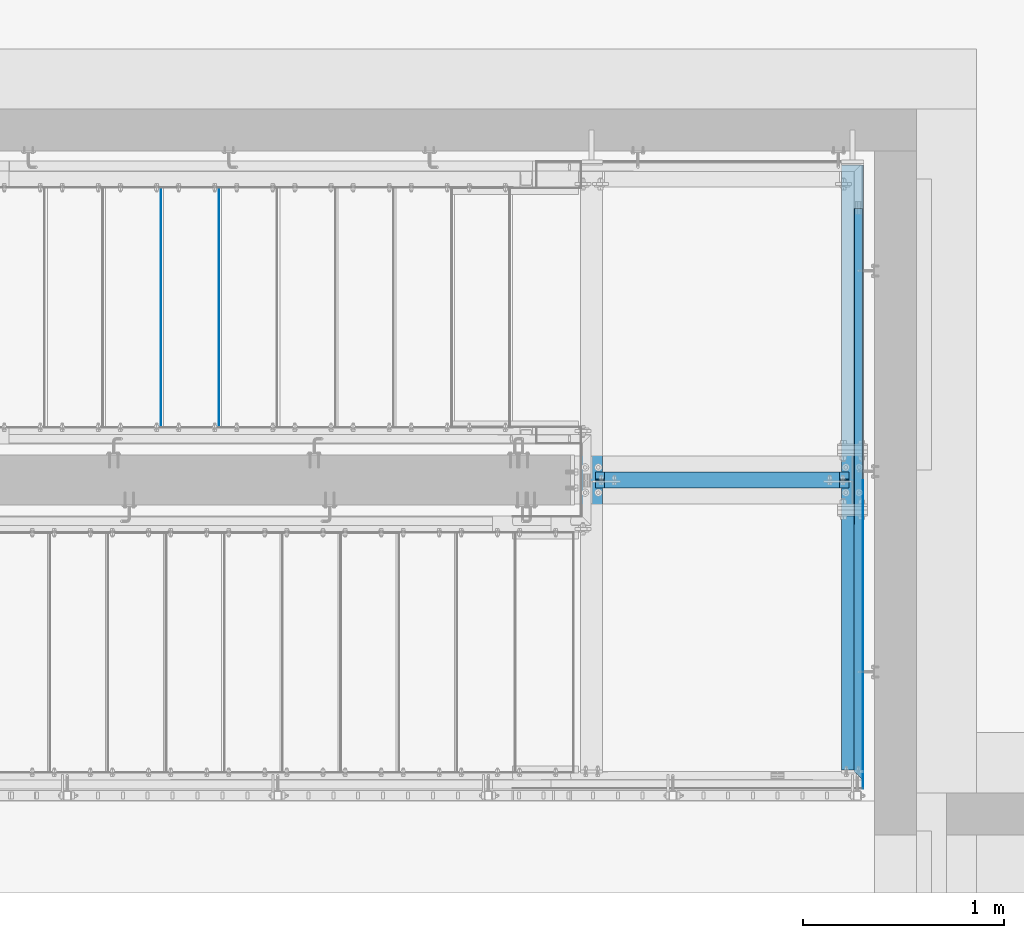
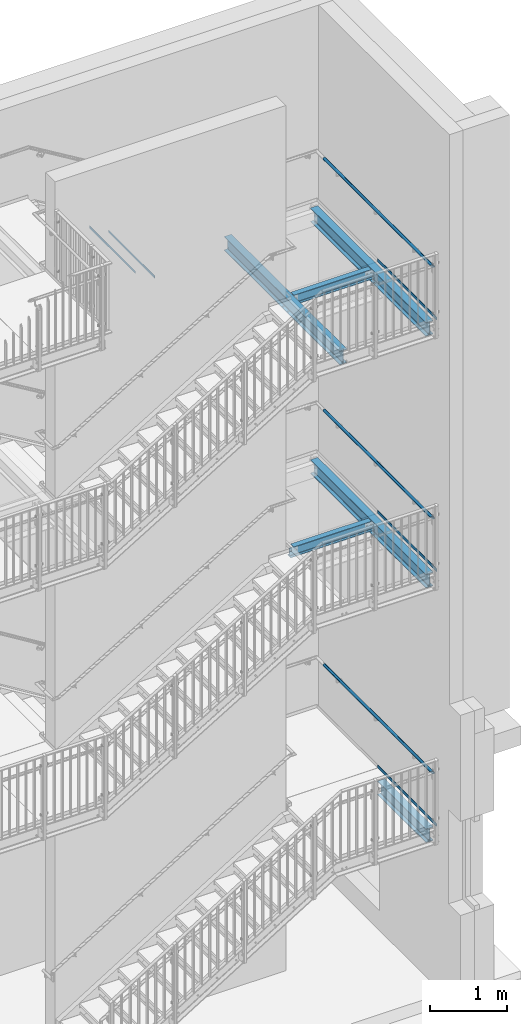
# One storey, part 35 of 410: 14 beams, 30 openings.
"""IFC2X3 building model written with IfcOpenShell, lengths in millimetres."""

from ifc_helpers import new_model, entity, si_unit, converted_unit, point, frame, frame_2d, origin, origin_with_axes, origin_2d, origin_2d_with_axis, place, context, project, spatial, circle_curve, line_curve, trimmed, segment, composite_curve, rectangle, circle, hollow_circle, i_section, outline, extrude, clip, halfspace, material, element, save


model = new_model("IFC2X3")

# Units and contexts
model_context = context("Model", 3, precision=1e-09, world=origin_with_axes())
ifc_project = project(units=[si_unit("LENGTHUNIT", "METRE", prefix="MILLI"), si_unit("AREAUNIT", "SQUARE_METRE"), si_unit("VOLUMEUNIT", "CUBIC_METRE"), converted_unit("PLANEANGLEUNIT", "DEGREE", entity("IfcPlaneAngleMeasure", 0.01745329), si_unit("PLANEANGLEUNIT", "RADIAN"), dimensions=[0, 0, 0, 0, 0, 0, 0])], contexts=[model_context])

# Site, building, storey
site_placement = place(None, origin_with_axes())
site = spatial("IfcSite", under=ifc_project, at=site_placement, Name="mKR Teilneubau & Sanierung BA1 - Ostfildern", CompositionType="ELEMENT")
building_placement = place(site_placement, origin_with_axes())
building = spatial("IfcBuilding", under=site, at=building_placement, Name="Struktur 1", CompositionType="ELEMENT")
storey_placement = place(building_placement, origin_with_axes())
storey = spatial("IfcBuildingStorey", under=building, at=storey_placement, Name="Default Storey", CompositionType="ELEMENT", Elevation=0.0)

# Beams
ifc_material = material(Name="S235JR")
for number, where, z_axis, x_axis in (
    (1, (-268.5, 18439.999999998, 6820.0), (0.0, 1.0, 0.0), (-1.0, 0.0, 0.0)),
    (2, (21.5, 18439.999999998, 6645.0), (0.0, 1.0, 0.0), (-1.0, 0.0, 0.0)),
):
    element("IfcBeam", number, at=place(None, frame(where, z_axis=z_axis, x_axis=x_axis)), inside=storey, material=ifc_material, Name="-", ObjectType="-", context=model_context, shape_type="SweptSolid", body=[
        extrude(rectangle(XDim=3.0, YDim=40.0, at=origin_2d()), origin(), (0.0, 0.0, -1.0), 1200.0),
    ])

# Beam, openings
beam_1_placement = place(None, frame((3180.001468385, 18549.996360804, 1743.0434785), z_axis=(0.0, 1.0, 0.0), x_axis=(1.0, 0.0, 0.0)))
beam_1 = element("IfcBeam", 3, at=beam_1_placement, inside=storey, material=ifc_material, Name="-", ObjectType="-", context=model_context, shape_type="SweptSolid", body=[
    extrude(i_section(OverallWidth=110.0, OverallDepth=220.0, WebThickness=5.9, FlangeThickness=9.2, FilletRadius=12.0, at=origin_2d()), origin(), (0.0, 0.0, -1.0), 3014.996360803),
])
opening_1_placement = place(beam_1_placement, frame((-40.001, 110.5, -1640.996360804), z_axis=(0.0, 1.0, 0.0), x_axis=(0.0, 0.0, 1.0)))
element("IfcOpeningElement", 4, at=opening_1_placement, cuts=beam_1, ObjectType="Opening", context=model_context, shape_type="SweptSolid", body=[
    extrude(outline(composite_curve([segment(trimmed(line_curve((0.0, 0.0), (1.0, 0.0), 16.0), [point((0.0, 0.0))], [point((16.0, 0.0))], True, "CARTESIAN"), True, "CONTINUOUS"), segment(trimmed(circle_curve(frame_2d((16.0, 7.001), x_axis=(1.0, 0.0)), 7.001), [point((16.0, 0.0))], [point((16.0, 14.002))], True, "CARTESIAN"), True, "CONTINUOUS"), segment(trimmed(line_curve((16.0, 14.002), (-1.0, 0.0), 16.0), [point((16.0, 14.002))], [point((0.0, 14.002))], True, "CARTESIAN"), True, "CONTINUOUS"), segment(trimmed(circle_curve(frame_2d((0.0, 7.001), x_axis=(1.0, 0.0)), 7.001), [point((0.0, 14.002))], [point((0.0, 0.0))], True, "CARTESIAN"), True, "CONTINUOUS")], self_intersect=False)), origin(), (0.0, 0.0, -1.0), 10.2),
])
opening_2_placement = place(beam_1_placement, frame((-40.001, 110.5, -1514.996360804), z_axis=(0.0, 1.0, 0.0), x_axis=(0.0, 0.0, 1.0)))
element("IfcOpeningElement", 5, at=opening_2_placement, cuts=beam_1, ObjectType="Opening", context=model_context, shape_type="SweptSolid", body=[
    extrude(outline(composite_curve([segment(trimmed(line_curve((0.0, 0.0), (1.0, 0.0), 16.0), [point((0.0, 0.0))], [point((16.0, 0.0))], True, "CARTESIAN"), True, "CONTINUOUS"), segment(trimmed(circle_curve(frame_2d((16.0, 7.001), x_axis=(1.0, 0.0)), 7.001), [point((16.0, 0.0))], [point((16.0, 14.002))], True, "CARTESIAN"), True, "CONTINUOUS"), segment(trimmed(line_curve((16.0, 14.002), (-1.0, 0.0), 16.0), [point((16.0, 14.002))], [point((0.0, 14.002))], True, "CARTESIAN"), True, "CONTINUOUS"), segment(trimmed(circle_curve(frame_2d((0.0, 7.001), x_axis=(1.0, 0.0)), 7.001), [point((0.0, 14.002))], [point((0.0, 0.0))], True, "CARTESIAN"), True, "CONTINUOUS")], self_intersect=False)), origin(), (0.0, 0.0, -1.0), 10.2),
])
opening_3_placement = place(beam_1_placement, frame((25.999, 110.5, -1640.996360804), z_axis=(0.0, 1.0, 0.0), x_axis=(0.0, 0.0, 1.0)))
element("IfcOpeningElement", 6, at=opening_3_placement, cuts=beam_1, ObjectType="Opening", context=model_context, shape_type="SweptSolid", body=[
    extrude(outline(composite_curve([segment(trimmed(line_curve((0.0, 0.0), (1.0, 0.0), 16.0), [point((0.0, 0.0))], [point((16.0, 0.0))], True, "CARTESIAN"), True, "CONTINUOUS"), segment(trimmed(circle_curve(frame_2d((16.0, 7.001), x_axis=(1.0, 0.0)), 7.001), [point((16.0, 0.0))], [point((16.0, 14.002))], True, "CARTESIAN"), True, "CONTINUOUS"), segment(trimmed(line_curve((16.0, 14.002), (-1.0, 0.0), 16.0), [point((16.0, 14.002))], [point((0.0, 14.002))], True, "CARTESIAN"), True, "CONTINUOUS"), segment(trimmed(circle_curve(frame_2d((0.0, 7.001), x_axis=(1.0, 0.0)), 7.001), [point((0.0, 14.002))], [point((0.0, 0.0))], True, "CARTESIAN"), True, "CONTINUOUS")], self_intersect=False)), origin(), (0.0, 0.0, -1.0), 10.2),
])
opening_4_placement = place(beam_1_placement, frame((25.999, 110.5, -1514.996360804), z_axis=(0.0, 1.0, 0.0), x_axis=(0.0, 0.0, 1.0)))
element("IfcOpeningElement", 7, at=opening_4_placement, cuts=beam_1, ObjectType="Opening", context=model_context, shape_type="SweptSolid", body=[
    extrude(outline(composite_curve([segment(trimmed(line_curve((0.0, 0.0), (1.0, 0.0), 16.0), [point((0.0, 0.0))], [point((16.0, 0.0))], True, "CARTESIAN"), True, "CONTINUOUS"), segment(trimmed(circle_curve(frame_2d((16.0, 7.001), x_axis=(1.0, 0.0)), 7.001), [point((16.0, 0.0))], [point((16.0, 14.002))], True, "CARTESIAN"), True, "CONTINUOUS"), segment(trimmed(line_curve((16.0, 14.002), (-1.0, 0.0), 16.0), [point((16.0, 14.002))], [point((0.0, 14.002))], True, "CARTESIAN"), True, "CONTINUOUS"), segment(trimmed(circle_curve(frame_2d((0.0, 7.001), x_axis=(1.0, 0.0)), 7.001), [point((0.0, 14.002))], [point((0.0, 0.0))], True, "CARTESIAN"), True, "CONTINUOUS")], self_intersect=False)), origin(), (0.0, 0.0, -1.0), 10.2),
])
opening_5_placement = place(beam_1_placement, frame((-3.45, 79.0, -15.0), z_axis=(1.0, 0.0, 0.0), x_axis=(0.0, 0.0, -1.0)))
element("IfcOpeningElement", 8, at=opening_5_placement, cuts=beam_1, ObjectType="Opening", context=model_context, shape_type="SweptSolid", body=[
    extrude(circle(Radius=7.001, at=origin_2d_with_axis()), origin(), (0.0, 0.0, 1.0), 6.9),
])
opening_6_placement = place(beam_1_placement, frame((-3.45, -79.0, -15.0), z_axis=(1.0, 0.0, 0.0), x_axis=(0.0, 0.0, -1.0)))
element("IfcOpeningElement", 9, at=opening_6_placement, cuts=beam_1, ObjectType="Opening", context=model_context, shape_type="SweptSolid", body=[
    extrude(circle(Radius=7.001, at=origin_2d_with_axis()), origin(), (0.0, 0.0, 1.0), 6.9),
])

# Beam
beam_2_placement = place(None, frame((3180.001468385, 15535.000000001, -2315.599999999), z_axis=(0.0, 1.0, 0.0), x_axis=(1.0, 0.0, 0.0)))
element("IfcBeam", 10, at=beam_2_placement, inside=storey, material=ifc_material, Name="-", ObjectType="-", context=model_context, shape_type="SweptSolid", body=[
    extrude(i_section(OverallWidth=110.0, OverallDepth=220.0, WebThickness=5.9, FlangeThickness=9.2, FilletRadius=12.0, at=origin_2d()), origin(), (0.0, 0.0, 1.0), 1264.999999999),
])

# Beam, openings
beam_3_placement = place(None, frame((1880.001468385, 18549.996360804, 5755.000000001), z_axis=(0.0, 1.0, 0.0), x_axis=(1.0, 0.0, 0.0)))
beam_3 = element("IfcBeam", 11, at=beam_3_placement, inside=storey, material=ifc_material, Name="-", ObjectType="-", context=model_context, shape_type="SweptSolid", body=[
    extrude(i_section(OverallWidth=110.0, OverallDepth=220.0, WebThickness=5.9, FlangeThickness=9.2, FilletRadius=12.0, at=origin_2d()), origin(), (0.0, 0.0, -1.0), 3014.996360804),
])
opening_7_placement = place(beam_3_placement, frame((-40.001, 110.5, -1514.996360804), z_axis=(0.0, 1.0, 0.0), x_axis=(0.0, 0.0, 1.0)))
element("IfcOpeningElement", 12, at=opening_7_placement, cuts=beam_3, ObjectType="Opening", context=model_context, shape_type="SweptSolid", body=[
    extrude(outline(composite_curve([segment(trimmed(line_curve((0.0, 0.0), (1.0, 0.0), 16.0), [point((0.0, 0.0))], [point((16.0, 0.0))], True, "CARTESIAN"), True, "CONTINUOUS"), segment(trimmed(circle_curve(frame_2d((16.0, 7.001), x_axis=(1.0, 0.0)), 7.001), [point((16.0, 0.0))], [point((16.0, 14.002))], True, "CARTESIAN"), True, "CONTINUOUS"), segment(trimmed(line_curve((16.0, 14.002), (-1.0, 0.0), 16.0), [point((16.0, 14.002))], [point((0.0, 14.002))], True, "CARTESIAN"), True, "CONTINUOUS"), segment(trimmed(circle_curve(frame_2d((0.0, 7.001), x_axis=(1.0, 0.0)), 7.001), [point((0.0, 14.002))], [point((0.0, 0.0))], True, "CARTESIAN"), True, "CONTINUOUS")], self_intersect=False)), origin(), (0.0, 0.0, -1.0), 10.2),
])
opening_8_placement = place(beam_3_placement, frame((25.999, 110.5, -1514.996360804), z_axis=(0.0, 1.0, 0.0), x_axis=(0.0, 0.0, 1.0)))
element("IfcOpeningElement", 13, at=opening_8_placement, cuts=beam_3, ObjectType="Opening", context=model_context, shape_type="SweptSolid", body=[
    extrude(outline(composite_curve([segment(trimmed(line_curve((0.0, 0.0), (1.0, 0.0), 16.0), [point((0.0, 0.0))], [point((16.0, 0.0))], True, "CARTESIAN"), True, "CONTINUOUS"), segment(trimmed(circle_curve(frame_2d((16.0, 7.001), x_axis=(1.0, 0.0)), 7.001), [point((16.0, 0.0))], [point((16.0, 14.002))], True, "CARTESIAN"), True, "CONTINUOUS"), segment(trimmed(line_curve((16.0, 14.002), (-1.0, 0.0), 16.0), [point((16.0, 14.002))], [point((0.0, 14.002))], True, "CARTESIAN"), True, "CONTINUOUS"), segment(trimmed(circle_curve(frame_2d((0.0, 7.001), x_axis=(1.0, 0.0)), 7.001), [point((0.0, 14.002))], [point((0.0, 0.0))], True, "CARTESIAN"), True, "CONTINUOUS")], self_intersect=False)), origin(), (0.0, 0.0, -1.0), 10.2),
])
opening_9_placement = place(beam_3_placement, frame((-40.001, 110.5, -1640.996360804), z_axis=(0.0, 1.0, 0.0), x_axis=(0.0, 0.0, 1.0)))
element("IfcOpeningElement", 14, at=opening_9_placement, cuts=beam_3, ObjectType="Opening", context=model_context, shape_type="SweptSolid", body=[
    extrude(outline(composite_curve([segment(trimmed(line_curve((0.0, 0.0), (1.0, 0.0), 16.0), [point((0.0, 0.0))], [point((16.0, 0.0))], True, "CARTESIAN"), True, "CONTINUOUS"), segment(trimmed(circle_curve(frame_2d((16.0, 7.001), x_axis=(1.0, 0.0)), 7.001), [point((16.0, 0.0))], [point((16.0, 14.002))], True, "CARTESIAN"), True, "CONTINUOUS"), segment(trimmed(line_curve((16.0, 14.002), (-1.0, 0.0), 16.0), [point((16.0, 14.002))], [point((0.0, 14.002))], True, "CARTESIAN"), True, "CONTINUOUS"), segment(trimmed(circle_curve(frame_2d((0.0, 7.001), x_axis=(1.0, 0.0)), 7.001), [point((0.0, 14.002))], [point((0.0, 0.0))], True, "CARTESIAN"), True, "CONTINUOUS")], self_intersect=False)), origin(), (0.0, 0.0, -1.0), 10.2),
])
opening_10_placement = place(beam_3_placement, frame((25.999, 110.5, -1640.996360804), z_axis=(0.0, 1.0, 0.0), x_axis=(0.0, 0.0, 1.0)))
element("IfcOpeningElement", 15, at=opening_10_placement, cuts=beam_3, ObjectType="Opening", context=model_context, shape_type="SweptSolid", body=[
    extrude(outline(composite_curve([segment(trimmed(line_curve((0.0, 0.0), (1.0, 0.0), 16.0), [point((0.0, 0.0))], [point((16.0, 0.0))], True, "CARTESIAN"), True, "CONTINUOUS"), segment(trimmed(circle_curve(frame_2d((16.0, 7.001), x_axis=(1.0, 0.0)), 7.001), [point((16.0, 0.0))], [point((16.0, 14.002))], True, "CARTESIAN"), True, "CONTINUOUS"), segment(trimmed(line_curve((16.0, 14.002), (-1.0, 0.0), 16.0), [point((16.0, 14.002))], [point((0.0, 14.002))], True, "CARTESIAN"), True, "CONTINUOUS"), segment(trimmed(circle_curve(frame_2d((0.0, 7.001), x_axis=(1.0, 0.0)), 7.001), [point((0.0, 14.002))], [point((0.0, 0.0))], True, "CARTESIAN"), True, "CONTINUOUS")], self_intersect=False)), origin(), (0.0, 0.0, -1.0), 10.2),
])
opening_11_placement = place(beam_3_placement, frame((-3.45, 79.0, -15.0), z_axis=(1.0, 0.0, 0.0), x_axis=(0.0, 0.0, -1.0)))
element("IfcOpeningElement", 16, at=opening_11_placement, cuts=beam_3, ObjectType="Opening", context=model_context, shape_type="SweptSolid", body=[
    extrude(circle(Radius=7.001, at=origin_2d_with_axis()), origin(), (0.0, 0.0, 1.0), 6.9),
])
opening_12_placement = place(beam_3_placement, frame((-3.45, -79.0, -15.0), z_axis=(1.0, 0.0, 0.0), x_axis=(0.0, 0.0, -1.0)))
element("IfcOpeningElement", 17, at=opening_12_placement, cuts=beam_3, ObjectType="Opening", context=model_context, shape_type="SweptSolid", body=[
    extrude(circle(Radius=7.001, at=origin_2d_with_axis()), origin(), (0.0, 0.0, 1.0), 6.9),
])

beam_4_placement = place(None, frame((3180.001468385, 18549.996360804, 5755.000000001), z_axis=(0.0, 1.0, 0.0), x_axis=(1.0, 0.0, 0.0)))
beam_4 = element("IfcBeam", 18, at=beam_4_placement, inside=storey, material=ifc_material, Name="-", ObjectType="-", context=model_context, shape_type="SweptSolid", body=[
    extrude(i_section(OverallWidth=110.0, OverallDepth=220.0, WebThickness=5.9, FlangeThickness=9.2, FilletRadius=12.0, at=origin_2d()), origin(), (0.0, 0.0, -1.0), 3014.996360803),
])
opening_13_placement = place(beam_4_placement, frame((-40.001, 110.5, -1514.996360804), z_axis=(0.0, 1.0, 0.0), x_axis=(0.0, 0.0, 1.0)))
element("IfcOpeningElement", 19, at=opening_13_placement, cuts=beam_4, ObjectType="Opening", context=model_context, shape_type="SweptSolid", body=[
    extrude(outline(composite_curve([segment(trimmed(line_curve((0.0, 0.0), (1.0, 0.0), 16.0), [point((0.0, 0.0))], [point((16.0, 0.0))], True, "CARTESIAN"), True, "CONTINUOUS"), segment(trimmed(circle_curve(frame_2d((16.0, 7.001), x_axis=(1.0, 0.0)), 7.001), [point((16.0, 0.0))], [point((16.0, 14.002))], True, "CARTESIAN"), True, "CONTINUOUS"), segment(trimmed(line_curve((16.0, 14.002), (-1.0, 0.0), 16.0), [point((16.0, 14.002))], [point((0.0, 14.002))], True, "CARTESIAN"), True, "CONTINUOUS"), segment(trimmed(circle_curve(frame_2d((0.0, 7.001), x_axis=(1.0, 0.0)), 7.001), [point((0.0, 14.002))], [point((0.0, 0.0))], True, "CARTESIAN"), True, "CONTINUOUS")], self_intersect=False)), origin(), (0.0, 0.0, -1.0), 10.2),
])
opening_14_placement = place(beam_4_placement, frame((-40.001, 110.5, -1640.996360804), z_axis=(0.0, 1.0, 0.0), x_axis=(0.0, 0.0, 1.0)))
element("IfcOpeningElement", 20, at=opening_14_placement, cuts=beam_4, ObjectType="Opening", context=model_context, shape_type="SweptSolid", body=[
    extrude(outline(composite_curve([segment(trimmed(line_curve((0.0, 0.0), (1.0, 0.0), 16.0), [point((0.0, 0.0))], [point((16.0, 0.0))], True, "CARTESIAN"), True, "CONTINUOUS"), segment(trimmed(circle_curve(frame_2d((16.0, 7.001), x_axis=(1.0, 0.0)), 7.001), [point((16.0, 0.0))], [point((16.0, 14.002))], True, "CARTESIAN"), True, "CONTINUOUS"), segment(trimmed(line_curve((16.0, 14.002), (-1.0, 0.0), 16.0), [point((16.0, 14.002))], [point((0.0, 14.002))], True, "CARTESIAN"), True, "CONTINUOUS"), segment(trimmed(circle_curve(frame_2d((0.0, 7.001), x_axis=(1.0, 0.0)), 7.001), [point((0.0, 14.002))], [point((0.0, 0.0))], True, "CARTESIAN"), True, "CONTINUOUS")], self_intersect=False)), origin(), (0.0, 0.0, -1.0), 10.2),
])
opening_15_placement = place(beam_4_placement, frame((25.999, 110.5, -1514.996360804), z_axis=(0.0, 1.0, 0.0), x_axis=(0.0, 0.0, 1.0)))
element("IfcOpeningElement", 21, at=opening_15_placement, cuts=beam_4, ObjectType="Opening", context=model_context, shape_type="SweptSolid", body=[
    extrude(outline(composite_curve([segment(trimmed(line_curve((0.0, 0.0), (1.0, 0.0), 16.0), [point((0.0, 0.0))], [point((16.0, 0.0))], True, "CARTESIAN"), True, "CONTINUOUS"), segment(trimmed(circle_curve(frame_2d((16.0, 7.001), x_axis=(1.0, 0.0)), 7.001), [point((16.0, 0.0))], [point((16.0, 14.002))], True, "CARTESIAN"), True, "CONTINUOUS"), segment(trimmed(line_curve((16.0, 14.002), (-1.0, 0.0), 16.0), [point((16.0, 14.002))], [point((0.0, 14.002))], True, "CARTESIAN"), True, "CONTINUOUS"), segment(trimmed(circle_curve(frame_2d((0.0, 7.001), x_axis=(1.0, 0.0)), 7.001), [point((0.0, 14.002))], [point((0.0, 0.0))], True, "CARTESIAN"), True, "CONTINUOUS")], self_intersect=False)), origin(), (0.0, 0.0, -1.0), 10.2),
])
opening_16_placement = place(beam_4_placement, frame((25.999, 110.5, -1640.996360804), z_axis=(0.0, 1.0, 0.0), x_axis=(0.0, 0.0, 1.0)))
element("IfcOpeningElement", 22, at=opening_16_placement, cuts=beam_4, ObjectType="Opening", context=model_context, shape_type="SweptSolid", body=[
    extrude(outline(composite_curve([segment(trimmed(line_curve((0.0, 0.0), (1.0, 0.0), 16.0), [point((0.0, 0.0))], [point((16.0, 0.0))], True, "CARTESIAN"), True, "CONTINUOUS"), segment(trimmed(circle_curve(frame_2d((16.0, 7.001), x_axis=(1.0, 0.0)), 7.001), [point((16.0, 0.0))], [point((16.0, 14.002))], True, "CARTESIAN"), True, "CONTINUOUS"), segment(trimmed(line_curve((16.0, 14.002), (-1.0, 0.0), 16.0), [point((16.0, 14.002))], [point((0.0, 14.002))], True, "CARTESIAN"), True, "CONTINUOUS"), segment(trimmed(circle_curve(frame_2d((0.0, 7.001), x_axis=(1.0, 0.0)), 7.001), [point((0.0, 14.002))], [point((0.0, 0.0))], True, "CARTESIAN"), True, "CONTINUOUS")], self_intersect=False)), origin(), (0.0, 0.0, -1.0), 10.2),
])
opening_17_placement = place(beam_4_placement, frame((-3.45, 79.0, -15.0), z_axis=(1.0, 0.0, 0.0), x_axis=(0.0, 0.0, -1.0)))
element("IfcOpeningElement", 23, at=opening_17_placement, cuts=beam_4, ObjectType="Opening", context=model_context, shape_type="SweptSolid", body=[
    extrude(circle(Radius=7.001, at=origin_2d_with_axis()), origin(), (0.0, 0.0, 1.0), 6.9),
])
opening_18_placement = place(beam_4_placement, frame((-3.45, -79.0, -15.0), z_axis=(1.0, 0.0, 0.0), x_axis=(0.0, 0.0, -1.0)))
element("IfcOpeningElement", 24, at=opening_18_placement, cuts=beam_4, ObjectType="Opening", context=model_context, shape_type="SweptSolid", body=[
    extrude(circle(Radius=7.001, at=origin_2d_with_axis()), origin(), (0.0, 0.0, 1.0), 6.9),
])

beam_5_placement = place(None, frame((3162.051468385, 16980.0, 1773.0434785), z_axis=(-1.0, 0.0, 0.0), x_axis=(0.0, -1.0, 0.0)))
beam_5 = element("IfcBeam", 25, at=beam_5_placement, inside=storey, material=ifc_material, Name="-", ObjectType="-", context=model_context, shape_type="SweptSolid", body=[
    extrude(i_section(OverallWidth=82.0, OverallDepth=160.0, WebThickness=5.0, FlangeThickness=7.4, FilletRadius=9.0, at=origin_2d()), origin(), (0.0, 0.0, 1.0), 1264.1),
])
opening_19_placement = place(beam_5_placement, frame((-141.1, 59.999, 1217.049), z_axis=(-1.0, 0.0, 0.0), x_axis=(0.0, -0.707106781, 0.707106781)))
element("IfcOpeningElement", 26, at=opening_19_placement, cuts=beam_5, ObjectType="Opening", context=model_context, shape_type="SweptSolid", body=[
    extrude(outline(composite_curve([segment(trimmed(circle_curve(frame_2d((3.535533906, 3.535533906), x_axis=(1.0, 0.0)), 5.0), [point((0.0, 0.0))], [point((7.071067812, 0.0))], True, "CARTESIAN"), True, "CONTINUOUS"), segment(trimmed(line_curve((7.071067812, 0.0), (0.707106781, 0.707106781), 50.275947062), [point((7.071067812, 0.0))], [point((42.62153091, 35.550463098))], True, "CARTESIAN"), True, "CONTINUOUS"), segment(trimmed(circle_curve(frame_2d((39.085997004, 39.085997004), x_axis=(1.0, 0.0)), 5.0), [point((42.62153091, 35.550463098))], [point((42.62153091, 42.62153091))], True, "CARTESIAN"), True, "CONTINUOUS"), segment(trimmed(line_curve((42.62153091, 42.62153091), (-0.707106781, 0.707106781), 28.45899753), [point((42.62153091, 42.62153091))], [point((22.49798077, 62.745081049))], True, "CARTESIAN"), True, "CONTINUOUS"), segment(trimmed(circle_curve(frame_2d((18.962446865, 59.209547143), x_axis=(1.0, 0.0)), 5.0), [point((22.49798077, 62.745081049))], [point((15.426912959, 62.745081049))], True, "CARTESIAN"), True, "CONTINUOUS"), segment(trimmed(line_curve((15.426912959, 62.745081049), (-0.707106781, -0.707106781), 50.275947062), [point((15.426912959, 62.745081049))], [point((-20.123550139, 27.194617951))], True, "CARTESIAN"), True, "CONTINUOUS"), segment(trimmed(circle_curve(frame_2d((-16.588016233, 23.659084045), x_axis=(1.0, 0.0)), 5.0), [point((-20.123550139, 27.194617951))], [point((-20.123550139, 20.123550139))], True, "CARTESIAN"), True, "CONTINUOUS"), segment(trimmed(line_curve((-20.123550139, 20.123550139), (0.707106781, -0.707106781), 28.45899753), [point((-20.123550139, 20.123550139))], [point((0.0, 0.0))], True, "CARTESIAN"), True, "CONTINUOUS")], self_intersect=False)), origin(), (0.0, 0.0, -1.0), 282.2),
])
opening_20_placement = place(beam_5_placement, frame((-141.1, 59.999, -16.27912247), z_axis=(-1.0, 0.0, 0.0), x_axis=(0.0, -0.707106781, 0.707106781)))
element("IfcOpeningElement", 27, at=opening_20_placement, cuts=beam_5, ObjectType="Opening", context=model_context, shape_type="SweptSolid", body=[
    extrude(outline(composite_curve([segment(trimmed(circle_curve(frame_2d((3.535533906, 3.535533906), x_axis=(1.0, 0.0)), 5.0), [point((0.0, 0.0))], [point((7.071067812, 0.0))], True, "CARTESIAN"), True, "CONTINUOUS"), segment(trimmed(line_curve((7.071067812, 0.0), (0.707106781, 0.707106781), 53.33012247), [point((7.071067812, 0.0))], [point((44.781159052, 37.71009124))], True, "CARTESIAN"), True, "CONTINUOUS"), segment(trimmed(circle_curve(frame_2d((41.245625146, 41.245625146), x_axis=(1.0, 0.0)), 5.0), [point((44.781159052, 37.71009124))], [point((44.781159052, 44.781159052))], True, "CARTESIAN"), True, "CONTINUOUS"), segment(trimmed(line_curve((44.781159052, 44.781159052), (-0.707106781, 0.707106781), 45.855644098), [point((44.781159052, 44.781159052))], [point((12.356322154, 77.205995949))], True, "CARTESIAN"), True, "CONTINUOUS"), segment(trimmed(circle_curve(frame_2d((8.820788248, 73.670462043), x_axis=(1.0, 0.0)), 5.0), [point((12.356322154, 77.205995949))], [point((5.285254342, 77.205995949))], True, "CARTESIAN"), True, "CONTINUOUS"), segment(trimmed(line_curve((5.285254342, 77.205995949), (-0.707106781, -0.707106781), 53.33012247), [point((5.285254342, 77.205995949))], [point((-32.424836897, 39.495904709))], True, "CARTESIAN"), True, "CONTINUOUS"), segment(trimmed(circle_curve(frame_2d((-28.889302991, 35.960370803), x_axis=(1.0, 0.0)), 5.0), [point((-32.424836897, 39.495904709))], [point((-32.424836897, 32.424836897))], True, "CARTESIAN"), True, "CONTINUOUS"), segment(trimmed(line_curve((-32.424836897, 32.424836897), (0.707106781, -0.707106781), 45.855644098), [point((-32.424836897, 32.424836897))], [point((0.0, 0.0))], True, "CARTESIAN"), True, "CONTINUOUS")], self_intersect=False)), origin(), (0.0, 0.0, -1.0), 282.2),
])
opening_21_placement = place(beam_5_placement, frame((-3.0, 0.0, 85.999), z_axis=(-1.0, 0.0, 0.0), x_axis=(0.0, -1.0, 0.0)))
element("IfcOpeningElement", 28, at=opening_21_placement, cuts=beam_5, ObjectType="Opening", context=model_context, shape_type="SweptSolid", body=[
    extrude(circle(Radius=9.001, at=frame_2d((0.0, 9.001), x_axis=(1.0, 0.0))), origin(), (0.0, 0.0, -1.0), 6.0),
])
opening_22_placement = place(beam_5_placement, frame((-3.0, 0.0, 20.999), z_axis=(-1.0, 0.0, 0.0), x_axis=(0.0, -1.0, 0.0)))
element("IfcOpeningElement", 29, at=opening_22_placement, cuts=beam_5, ObjectType="Opening", context=model_context, shape_type="SweptSolid", body=[
    extrude(circle(Radius=9.001, at=frame_2d((0.0, 9.001), x_axis=(1.0, 0.0))), origin(), (0.0, 0.0, -1.0), 6.0),
])
opening_23_placement = place(beam_5_placement, frame((-3.0, 0.0, 1201.6), z_axis=(1.0, 0.0, 0.0), x_axis=(0.0, 0.0, -1.0)))
element("IfcOpeningElement", 30, at=opening_23_placement, cuts=beam_5, ObjectType="Opening", context=model_context, shape_type="SweptSolid", body=[
    extrude(circle(Radius=9.001, at=frame_2d((32.5, 0.0), x_axis=(1.0, 0.0))), origin(), (0.0, 0.0, 1.0), 6.0),
])
opening_24_placement = place(beam_5_placement, frame((-3.0, 0.0, 1201.6), z_axis=(1.0, 0.0, 0.0), x_axis=(0.0, 0.0, -1.0)))
element("IfcOpeningElement", 31, at=opening_24_placement, cuts=beam_5, ObjectType="Opening", context=model_context, shape_type="SweptSolid", body=[
    extrude(circle(Radius=9.001, at=frame_2d((-32.5, 0.0), x_axis=(1.0, 0.0))), origin(), (0.0, 0.0, 1.0), 6.0),
])

beam_6_placement = place(None, frame((3162.051468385, 16980.0, 5785.0), z_axis=(-1.0, 0.0, 0.0), x_axis=(0.0, -1.0, 0.0)))
beam_6 = element("IfcBeam", 32, at=beam_6_placement, inside=storey, material=ifc_material, Name="-", ObjectType="-", context=model_context, shape_type="SweptSolid", body=[
    extrude(i_section(OverallWidth=82.0, OverallDepth=160.0, WebThickness=5.0, FlangeThickness=7.4, FilletRadius=9.0, at=origin_2d()), origin(), (0.0, 0.0, 1.0), 1264.1),
])
opening_25_placement = place(beam_6_placement, frame((-141.1, 59.999, 1217.049), z_axis=(-1.0, 0.0, 0.0), x_axis=(0.0, -0.707106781, 0.707106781)))
element("IfcOpeningElement", 33, at=opening_25_placement, cuts=beam_6, ObjectType="Opening", context=model_context, shape_type="SweptSolid", body=[
    extrude(outline(composite_curve([segment(trimmed(circle_curve(frame_2d((3.535533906, 3.535533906), x_axis=(1.0, 0.0)), 5.0), [point((0.0, 0.0))], [point((7.071067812, 0.0))], True, "CARTESIAN"), True, "CONTINUOUS"), segment(trimmed(line_curve((7.071067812, 0.0), (0.707106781, 0.707106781), 50.275947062), [point((7.071067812, 0.0))], [point((42.62153091, 35.550463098))], True, "CARTESIAN"), True, "CONTINUOUS"), segment(trimmed(circle_curve(frame_2d((39.085997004, 39.085997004), x_axis=(1.0, 0.0)), 5.0), [point((42.62153091, 35.550463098))], [point((42.62153091, 42.62153091))], True, "CARTESIAN"), True, "CONTINUOUS"), segment(trimmed(line_curve((42.62153091, 42.62153091), (-0.707106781, 0.707106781), 28.45899753), [point((42.62153091, 42.62153091))], [point((22.49798077, 62.745081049))], True, "CARTESIAN"), True, "CONTINUOUS"), segment(trimmed(circle_curve(frame_2d((18.962446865, 59.209547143), x_axis=(1.0, 0.0)), 5.0), [point((22.49798077, 62.745081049))], [point((15.426912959, 62.745081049))], True, "CARTESIAN"), True, "CONTINUOUS"), segment(trimmed(line_curve((15.426912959, 62.745081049), (-0.707106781, -0.707106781), 50.275947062), [point((15.426912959, 62.745081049))], [point((-20.123550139, 27.194617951))], True, "CARTESIAN"), True, "CONTINUOUS"), segment(trimmed(circle_curve(frame_2d((-16.588016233, 23.659084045), x_axis=(1.0, 0.0)), 5.0), [point((-20.123550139, 27.194617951))], [point((-20.123550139, 20.123550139))], True, "CARTESIAN"), True, "CONTINUOUS"), segment(trimmed(line_curve((-20.123550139, 20.123550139), (0.707106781, -0.707106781), 28.45899753), [point((-20.123550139, 20.123550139))], [point((0.0, 0.0))], True, "CARTESIAN"), True, "CONTINUOUS")], self_intersect=False)), origin(), (0.0, 0.0, -1.0), 282.2),
])
opening_26_placement = place(beam_6_placement, frame((-141.1, 59.999, -16.27912247), z_axis=(-1.0, 0.0, 0.0), x_axis=(0.0, -0.707106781, 0.707106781)))
element("IfcOpeningElement", 34, at=opening_26_placement, cuts=beam_6, ObjectType="Opening", context=model_context, shape_type="SweptSolid", body=[
    extrude(outline(composite_curve([segment(trimmed(circle_curve(frame_2d((3.535533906, 3.535533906), x_axis=(1.0, 0.0)), 5.0), [point((0.0, 0.0))], [point((7.071067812, 0.0))], True, "CARTESIAN"), True, "CONTINUOUS"), segment(trimmed(line_curve((7.071067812, 0.0), (0.707106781, 0.707106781), 53.33012247), [point((7.071067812, 0.0))], [point((44.781159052, 37.71009124))], True, "CARTESIAN"), True, "CONTINUOUS"), segment(trimmed(circle_curve(frame_2d((41.245625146, 41.245625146), x_axis=(1.0, 0.0)), 5.0), [point((44.781159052, 37.71009124))], [point((44.781159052, 44.781159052))], True, "CARTESIAN"), True, "CONTINUOUS"), segment(trimmed(line_curve((44.781159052, 44.781159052), (-0.707106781, 0.707106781), 45.855644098), [point((44.781159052, 44.781159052))], [point((12.356322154, 77.205995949))], True, "CARTESIAN"), True, "CONTINUOUS"), segment(trimmed(circle_curve(frame_2d((8.820788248, 73.670462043), x_axis=(1.0, 0.0)), 5.0), [point((12.356322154, 77.205995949))], [point((5.285254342, 77.205995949))], True, "CARTESIAN"), True, "CONTINUOUS"), segment(trimmed(line_curve((5.285254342, 77.205995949), (-0.707106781, -0.707106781), 53.33012247), [point((5.285254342, 77.205995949))], [point((-32.424836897, 39.495904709))], True, "CARTESIAN"), True, "CONTINUOUS"), segment(trimmed(circle_curve(frame_2d((-28.889302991, 35.960370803), x_axis=(1.0, 0.0)), 5.0), [point((-32.424836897, 39.495904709))], [point((-32.424836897, 32.424836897))], True, "CARTESIAN"), True, "CONTINUOUS"), segment(trimmed(line_curve((-32.424836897, 32.424836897), (0.707106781, -0.707106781), 45.855644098), [point((-32.424836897, 32.424836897))], [point((0.0, 0.0))], True, "CARTESIAN"), True, "CONTINUOUS")], self_intersect=False)), origin(), (0.0, 0.0, -1.0), 282.2),
])
opening_27_placement = place(beam_6_placement, frame((-3.0, 0.0, 1201.6), z_axis=(1.0, 0.0, 0.0), x_axis=(0.0, 0.0, -1.0)))
element("IfcOpeningElement", 35, at=opening_27_placement, cuts=beam_6, ObjectType="Opening", context=model_context, shape_type="SweptSolid", body=[
    extrude(circle(Radius=9.001, at=frame_2d((32.5, 0.0), x_axis=(1.0, 0.0))), origin(), (0.0, 0.0, 1.0), 6.0),
])
opening_28_placement = place(beam_6_placement, frame((-3.0, 0.0, 1201.6), z_axis=(1.0, 0.0, 0.0), x_axis=(0.0, 0.0, -1.0)))
element("IfcOpeningElement", 36, at=opening_28_placement, cuts=beam_6, ObjectType="Opening", context=model_context, shape_type="SweptSolid", body=[
    extrude(circle(Radius=9.001, at=frame_2d((-32.5, 0.0), x_axis=(1.0, 0.0))), origin(), (0.0, 0.0, 1.0), 6.0),
])
opening_29_placement = place(beam_6_placement, frame((-3.0, 0.0, 85.999), z_axis=(-1.0, 0.0, 0.0), x_axis=(0.0, -1.0, 0.0)))
element("IfcOpeningElement", 37, at=opening_29_placement, cuts=beam_6, ObjectType="Opening", context=model_context, shape_type="SweptSolid", body=[
    extrude(circle(Radius=9.001, at=frame_2d((0.0, 9.001), x_axis=(1.0, 0.0))), origin(), (0.0, 0.0, -1.0), 6.0),
])
opening_30_placement = place(beam_6_placement, frame((-3.0, 0.0, 20.999), z_axis=(-1.0, 0.0, 0.0), x_axis=(0.0, -1.0, 0.0)))
element("IfcOpeningElement", 38, at=opening_30_placement, cuts=beam_6, ObjectType="Opening", context=model_context, shape_type="SweptSolid", body=[
    extrude(circle(Radius=9.001, at=frame_2d((0.0, 9.001), x_axis=(1.0, 0.0))), origin(), (0.0, 0.0, -1.0), 6.0),
])

# Beams
for number, where, z_axis, x_axis in (
    (39, (3233.001468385, 15439.999999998, -2120.6), (0.0, -1.0, 0.0), (1.0, 0.0, 0.0)),
    (40, (3233.001468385, 15439.999999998, 1938.0434785), (0.0, -1.0, 0.0), (1.0, 0.0, 0.0)),
    (41, (3233.001468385, 15439.999999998, 5950.0), (0.0, -1.0, 0.0), (1.0, 0.0, 0.0)),
):
    element("IfcBeam", number, at=place(None, frame(where, z_axis=z_axis, x_axis=x_axis)), inside=storey, material=ifc_material, Name="-", ObjectType="-", context=model_context, shape_type="SweptSolid", body=[
        extrude(rectangle(XDim=4.0, YDim=50.0, at=origin_2d()), origin(), (0.0, 0.0, -1.0), 1539.000000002),
    ])
beam_7_placement = place(None, frame((3209.999216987, 18334.999977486, 6753.8), z_axis=(0.0, 1.0, 0.0), x_axis=(-1.0, 0.0, 0.0)))
element("IfcBeam", 42, at=beam_7_placement, inside=storey, Name="-", ObjectType="-", context=model_context, shape_type="Clipping", body=[
    clip(extrude(hollow_circle(Radius=21.2, WallThickness=3.2, at=origin_2d()), origin(), (0.0, 0.0, -1.0), 2871.399977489), halfspace(frame((-6148.001098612, -6753.8, -8976.999661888), z_axis=(-0.707106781, 0.0, 0.707106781), x_axis=(0.707106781, 0.0, 0.707106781)), True)),
])
beam_8_placement = place(None, frame((3209.999216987, 18334.999999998, 2741.8434785), z_axis=(0.0, 1.0, 0.0), x_axis=(-1.0, 0.0, 0.0)))
element("IfcBeam", 43, at=beam_8_placement, inside=storey, Name="-", ObjectType="-", context=model_context, shape_type="Clipping", body=[
    clip(extrude(hollow_circle(Radius=21.2, WallThickness=3.2, at=origin_2d()), origin(), (0.0, 0.0, -1.0), 2871.4), halfspace(frame((-6148.001098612, -2741.8434785, -8976.999684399), z_axis=(-0.707106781, 0.0, 0.707106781), x_axis=(0.707106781, 0.0, 0.707106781)), True)),
])
beam_9_placement = place(None, frame((3209.999216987, 18334.999977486, -1316.8), z_axis=(0.0, 1.0, 0.0), x_axis=(-1.0, 0.0, 0.0)))
element("IfcBeam", 44, at=beam_9_placement, inside=storey, Name="-", ObjectType="-", context=model_context, shape_type="Clipping", body=[
    clip(extrude(hollow_circle(Radius=21.2, WallThickness=3.2, at=origin_2d()), origin(), (0.0, 0.0, -1.0), 2871.399977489), halfspace(frame((-6148.001098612, 1316.8, -8976.999661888), z_axis=(-0.707106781, 0.0, 0.707106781), x_axis=(0.707106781, 0.0, 0.707106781)), True)),
])

save(model, "model.ifc")
